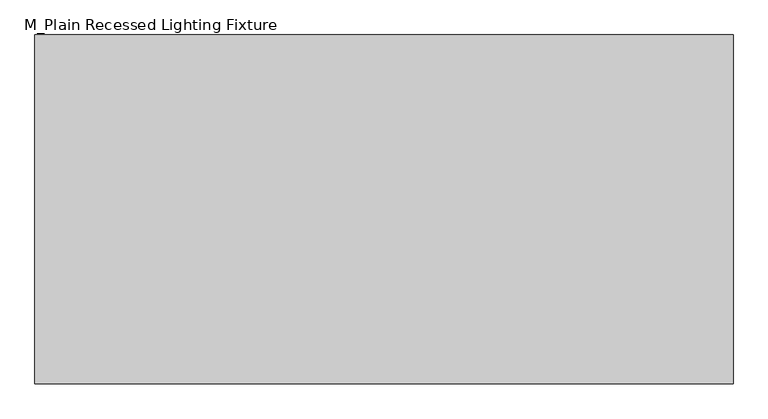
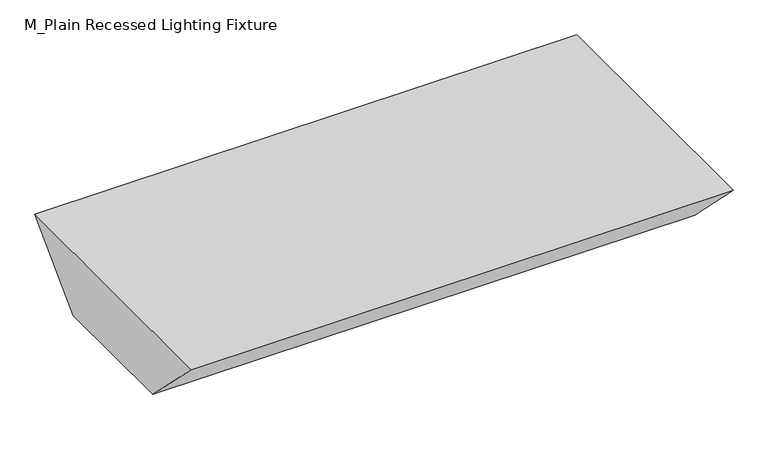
"""IFC4 building model written with IfcOpenShell, lengths in millimetres: light fixture geometry, M_Plain Recessed Lighting Fixture : tubelight."""

from ifc_helpers import new_model, si_unit, frame, origin, place, context, project, spatial, polyline, outline, extrude, source, transform, mapped, element, save


def m_plain_recessed_lighting_fixture_c7d3eefa(model_context):
    return source(origin(), model_context, "Body", "SweptSolid", [
        extrude(outline(polyline([(-609.0, 0.0), (0.0, 0.0), (-150.0, -150.0), (-459.0, -150.0), (-609.0, 0.0)])), frame((0.0, 0.0, 0.0), z_axis=(1.0, 0.0, 0.0), x_axis=(0.0, 1.0, 0.0)), (0.0, 0.0, 1.0), 1219.0),
    ])


if __name__ == "__main__":
    model = new_model("IFC4")
    model_context = context("Model", 3, world=origin())
    ifc_project = project(units=[si_unit("LENGTHUNIT", "METRE", prefix="MILLI")], contexts=[model_context])
    site = spatial("IfcSite", under=ifc_project)
    building = spatial("IfcBuilding", under=site)
    placement = place(None, origin())
    m_plain_recessed_lighting_fixture_shape = m_plain_recessed_lighting_fixture_c7d3eefa(model_context)
    element("IfcLightFixture", 1, ObjectType="M_Plain Recessed Lighting Fixture : tubelight", at=placement, inside=building, context=model_context, shape_type="MappedRepresentation", body=[
        mapped(m_plain_recessed_lighting_fixture_shape, transform((0.0, 0.0, 0.0), x_axis=(1.0, 0.0, 0.0), y_axis=(0.0, 1.0, 0.0), z_axis=(0.0, 0.0, 1.0))),
    ])
    save(model, "model.ifc")
